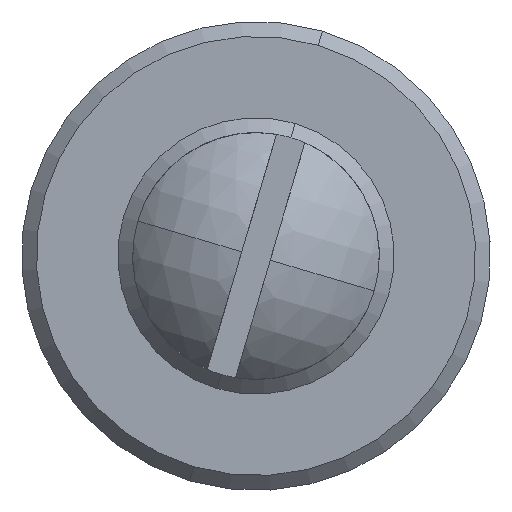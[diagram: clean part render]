
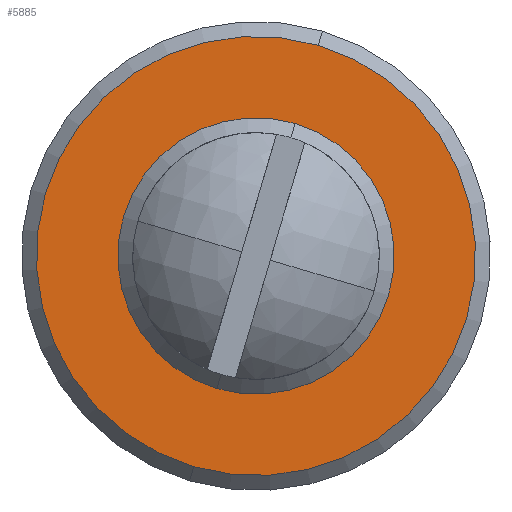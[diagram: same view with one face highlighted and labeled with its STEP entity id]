
A CAD part, left-side view. The second image highlights one B-rep face of the part: STEP entity #5885.
In plain terms, the highlighted planar face has unit normal (-1, 0, 0).
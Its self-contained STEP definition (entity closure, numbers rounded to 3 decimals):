
#55 = DIRECTION ( 'NONE',  ( 0., 0., -1. ) ) ;
#131 = DIRECTION ( 'NONE',  ( -1., 0., 0. ) ) ;
#184 = CARTESIAN_POINT ( 'NONE',  ( 2., 0., 0. ) ) ;
#483 = CARTESIAN_POINT ( 'NONE',  ( 2., 0., 0. ) ) ;
#488 = DIRECTION ( 'NONE',  ( 0., 0., -1. ) ) ;
#529 = DIRECTION ( 'NONE',  ( 0., 0., -1. ) ) ;
#544 = DIRECTION ( 'NONE',  ( -1., 0., 0. ) ) ;
#926 = DIRECTION ( 'NONE',  ( 1., 0., 0. ) ) ;
#997 = CARTESIAN_POINT ( 'NONE',  ( 2., 0., 0. ) ) ;
#3151 = EDGE_LOOP ( 'NONE', ( #6961, #6871 ) ) ;
#3168 = EDGE_LOOP ( 'NONE', ( #6596, #6906 ) ) ;
#3257 = EDGE_CURVE ( 'NONE', #6476, #6284, #6894, .T. ) ;
#3364 = EDGE_CURVE ( 'NONE', #6860, #6251, #6986, .T. ) ;
#3367 = EDGE_CURVE ( 'NONE', #6284, #6476, #6853, .T. ) ;
#3548 = EDGE_CURVE ( 'NONE', #6251, #6860, #6812, .T. ) ;
#4320 = CARTESIAN_POINT ( 'NONE',  ( 2., 0., 2.8 ) ) ;
#4407 = CARTESIAN_POINT ( 'NONE',  ( 2., 0., 4.45 ) ) ;
#4462 = CARTESIAN_POINT ( 'NONE',  ( 2., 0., -4.45 ) ) ;
#4468 = CARTESIAN_POINT ( 'NONE',  ( 2., 0., -2.8 ) ) ;
#4748 = AXIS2_PLACEMENT_3D ( 'NONE', #7526, #7455, #7254 ) ;
#4769 = AXIS2_PLACEMENT_3D ( 'NONE', #184, #131, #55 ) ;
#4800 = AXIS2_PLACEMENT_3D ( 'NONE', #7251, #7259, #7520 ) ;
#4914 = AXIS2_PLACEMENT_3D ( 'NONE', #997, #544, #529 ) ;
#4915 = AXIS2_PLACEMENT_3D ( 'NONE', #483, #926, #488 ) ;
#5885 = ADVANCED_FACE ( 'NONE', ( #6638, #6545 ), #7541, .F. ) ;
#6251 = VERTEX_POINT ( 'NONE', #4468 ) ;
#6284 = VERTEX_POINT ( 'NONE', #4462 ) ;
#6476 = VERTEX_POINT ( 'NONE', #4407 ) ;
#6545 = FACE_BOUND ( 'NONE', #3151, .T. ) ;
#6596 = ORIENTED_EDGE ( 'NONE', *, *, #3367, .T. ) ;
#6638 = FACE_OUTER_BOUND ( 'NONE', #3168, .T. ) ;
#6812 = CIRCLE ( 'NONE', #4748, 2.8 ) ;
#6853 = CIRCLE ( 'NONE', #4914, 4.45 ) ;
#6860 = VERTEX_POINT ( 'NONE', #4320 ) ;
#6871 = ORIENTED_EDGE ( 'NONE', *, *, #3364, .T. ) ;
#6894 = CIRCLE ( 'NONE', #4769, 4.45 ) ;
#6906 = ORIENTED_EDGE ( 'NONE', *, *, #3257, .T. ) ;
#6961 = ORIENTED_EDGE ( 'NONE', *, *, #3548, .T. ) ;
#6986 = CIRCLE ( 'NONE', #4915, 2.8 ) ;
#7251 = CARTESIAN_POINT ( 'NONE',  ( 2., 2.5, 0. ) ) ;
#7254 = DIRECTION ( 'NONE',  ( 0., 0., -1. ) ) ;
#7259 = DIRECTION ( 'NONE',  ( 1., 0., 0. ) ) ;
#7455 = DIRECTION ( 'NONE',  ( 1., 0., 0. ) ) ;
#7520 = DIRECTION ( 'NONE',  ( 0., 0., -1. ) ) ;
#7526 = CARTESIAN_POINT ( 'NONE',  ( 2., 0., 0. ) ) ;
#7541 = PLANE ( 'NONE',  #4800 ) ;
